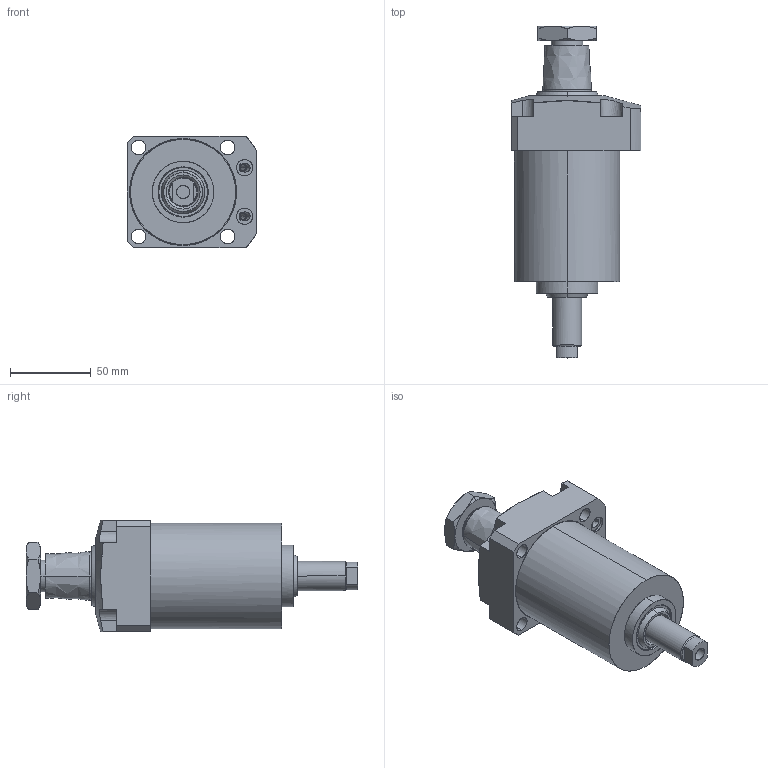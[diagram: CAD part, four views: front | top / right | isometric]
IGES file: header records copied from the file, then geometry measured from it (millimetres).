
Start section: Comment
Global section: file name: JF6H53-28D.igs; native system:  By Spatial Corp.; preprocessor: XPlus GENERIC/IGES 3.0; author: Author; organization: Title; date: 20080526.100122; units: millimetre
Bounding box: 80 x 205 x 69 mm (x, y, z)
Surface area: 88496.5 mm2 (no closed solid volume)
Topology: 0 solids, 0 shells, 255 faces, 1132 edges, 1122 vertices
Faces by surface type: bspline 255
